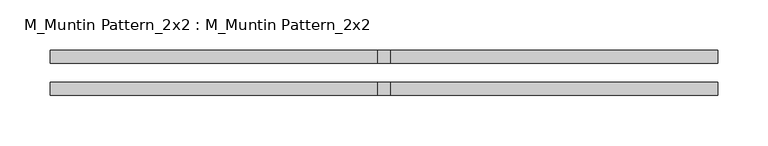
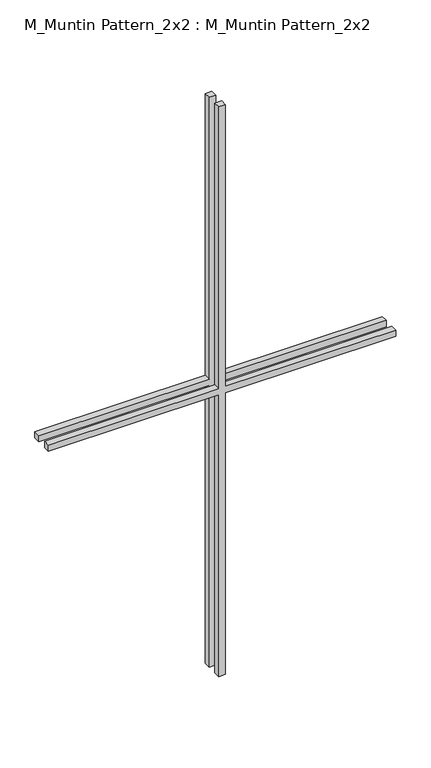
"""IFC4 building model written with IfcOpenShell, lengths in millimetres: proxy geometry, M_Muntin Pattern_2x2 : M_Muntin Pattern_2x2."""

from ifc_helpers import new_model, si_unit, frame, origin, place, context, project, spatial, polyline, outline, extrude, source, transform, mapped, element, save


def m_muntin_pattern_2x2_m_muntin_pattern_2x2_bb1c631c(model_context):
    return source(origin(), model_context, "Body", "SweptSolid", [
        extrude(outline(polyline([(581.5, -6.35), (581.5, -331.7375), (568.8, -331.7375), (568.8, -6.35), (0.0, -6.35), (0.0, 6.35), (568.8, 6.35), (568.8, 331.7375), (581.5, 331.7375), (581.5, 6.35), (1150.3, 6.35), (1150.3, -6.35), (581.5, -6.35)])), frame((0.0, -22.225, 0.0), z_axis=(0.0, 1.0, 0.0), x_axis=(0.0, 0.0, 1.0)), (0.0, 0.0, 1.0), 12.7),
        extrude(outline(polyline([(581.5, -6.35), (581.5, -331.7375), (568.8, -331.7375), (568.8, -6.35), (0.0, -6.35), (0.0, 6.35), (568.8, 6.35), (568.8, 331.7375), (581.5, 331.7375), (581.5, 6.35), (1150.3, 6.35), (1150.3, -6.35), (581.5, -6.35)])), frame((0.0, 9.525, 0.0), z_axis=(0.0, 1.0, 0.0), x_axis=(0.0, 0.0, 1.0)), (0.0, 0.0, 1.0), 12.7),
    ])


if __name__ == "__main__":
    model = new_model("IFC4")
    model_context = context("Model", 3, world=origin())
    ifc_project = project(units=[si_unit("LENGTHUNIT", "METRE", prefix="MILLI")], contexts=[model_context])
    site = spatial("IfcSite", under=ifc_project)
    building = spatial("IfcBuilding", under=site)
    placement = place(None, origin())
    m_muntin_pattern_2x2_m_muntin_pattern_2x2_shape = m_muntin_pattern_2x2_m_muntin_pattern_2x2_bb1c631c(model_context)
    element("IfcBuildingElementProxy", 1, Name="M_Muntin Pattern_2x2 : M_Muntin Pattern_2x2", ObjectType="M_Muntin Pattern_2x2 : M_Muntin Pattern_2x2", at=placement, inside=building, context=model_context, shape_type="MappedRepresentation", body=[
        mapped(m_muntin_pattern_2x2_m_muntin_pattern_2x2_shape, transform((0.0, 0.0, 0.0), x_axis=(1.0, 0.0, 0.0), y_axis=(0.0, 1.0, 0.0), z_axis=(0.0, 0.0, 1.0))),
    ])
    save(model, "model.ifc")
